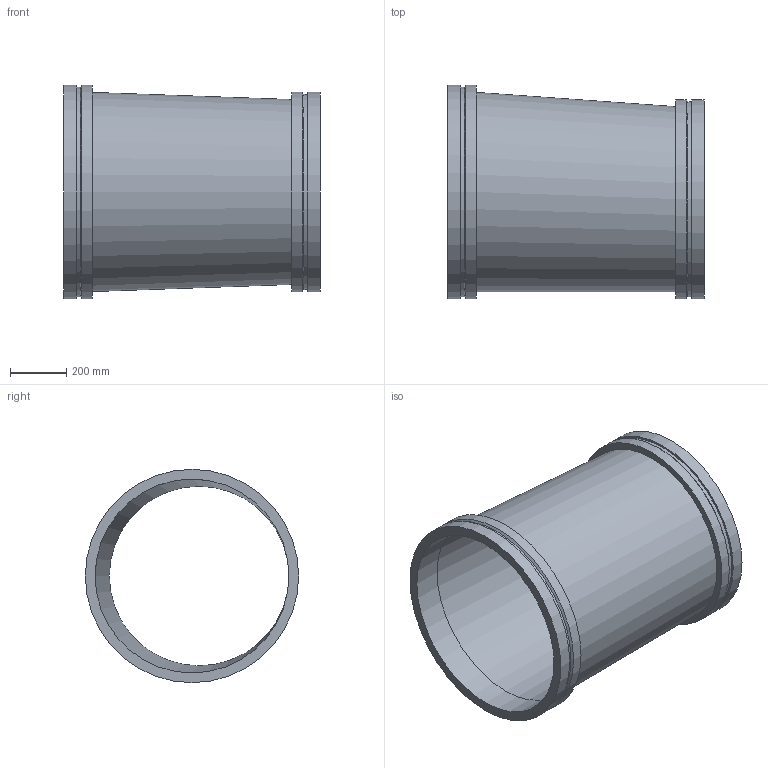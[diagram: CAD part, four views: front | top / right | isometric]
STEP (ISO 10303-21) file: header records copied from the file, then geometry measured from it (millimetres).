
FILE_DESCRIPTION(/* description */ ('VIC REDUCER ECCENTRIC No W51-VR','CAx-IF Rec.Pracs.---Representation and Presentation of Product Manufacturing Information (PMI)---4.0---2014-10-13'),/* implementation_level */ '2;1');
FILE_NAME(/* name */ 'C:\Users\kkamble\AppData\Roaming\Autodesk\ApplicationPlugins\Back Up\Victaulic_Vic-Ring_Reducer Eccentric_No W51 VR (AGR)\Victaulic_Vic-Ring_Reducer Eccentric_No W51 VR (AGR)_28.0x26.0 (700x650).stp',/* time_stamp */ '2020-09-10T11:49:56+05:00',/* author */ ('CONSTRUCTION PIPING SERVICES'),/* organization */ ('Victaulic'),/* preprocessor_version */ 'ST-DEVELOPER v17.2',/* originating_system */ 'Autodesk Inventor 2019',/* authorisation */ '');
FILE_SCHEMA (('AP242_MANAGED_MODEL_BASED_3D_ENGINEERING_MIM_LF { 1 0 10303 442 1 1 4 }'));
Length unit declared in the file: inch
Products named in the file (1): W51 VR-28.0x26.0
Bounding box: 914.4 x 762 x 762 mm (x, y, z)
Volume: 29517931.7 mm3; surface area: 4235411.3 mm2
Topology: 1 solids, 1 shells, 18 faces, 49 edges, 37 vertices
Faces by surface type: cylinder 8, plane 6, cone 2, bspline 2
Full cylindrical faces by diameter (mm): 641.35 x1, 692.15 x1, 696.722 x1, 711.2 x2, 747.522 x1, 762 x2
Entity records: 792 total; most frequent: CARTESIAN_POINT 158, DIRECTION 144, ORIENTED_EDGE 98, AXIS2_PLACEMENT_3D 67, EDGE_CURVE 49, CIRCLE 37, VERTEX_POINT 37, EDGE_LOOP 24
